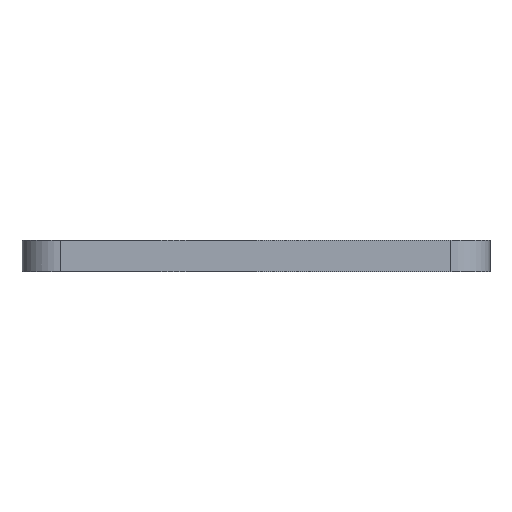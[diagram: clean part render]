
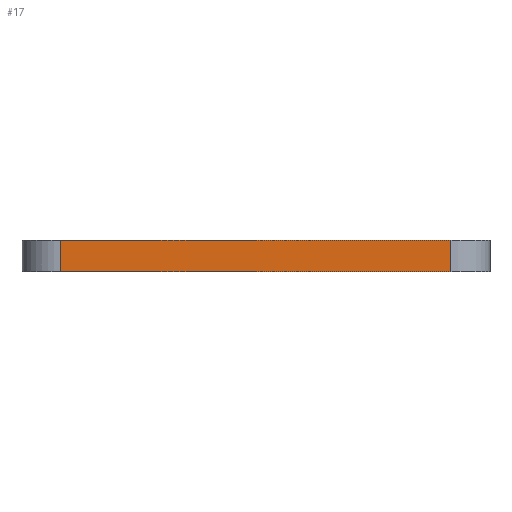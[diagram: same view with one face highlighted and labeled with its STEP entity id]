
A CAD part, left-side view. The second image highlights one B-rep face of the part: STEP entity #17.
In plain terms, the highlighted planar face has unit normal (-1, 0, 0).
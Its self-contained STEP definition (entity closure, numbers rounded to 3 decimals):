
#17 = ADVANCED_FACE('',(#18),#32,.F.);
#18 = FACE_BOUND('',#19,.F.);
#19 = EDGE_LOOP('',(#20,#55,#83,#111));
#20 = ORIENTED_EDGE('',*,*,#21,.F.);
#21 = EDGE_CURVE('',#22,#24,#26,.T.);
#22 = VERTEX_POINT('',#23);
#23 = CARTESIAN_POINT('',(-25.,-10.,1.6));
#24 = VERTEX_POINT('',#25);
#25 = CARTESIAN_POINT('',(-25.,10.,1.6));
#26 = SURFACE_CURVE('',#27,(#31,#43),.PCURVE_S1.);
#27 = LINE('',#28,#29);
#28 = CARTESIAN_POINT('',(-25.,-12.,1.6));
#29 = VECTOR('',#30,1.);
#30 = DIRECTION('',(0.,1.,0.));
#31 = PCURVE('',#32,#37);
#32 = PLANE('',#33);
#33 = AXIS2_PLACEMENT_3D('',#34,#35,#36);
#34 = CARTESIAN_POINT('',(-25.,-12.,0.));
#35 = DIRECTION('',(1.,0.,0.));
#36 = DIRECTION('',(0.,0.,1.));
#37 = DEFINITIONAL_REPRESENTATION('',(#38),#42);
#38 = LINE('',#39,#40);
#39 = CARTESIAN_POINT('',(1.6,0.));
#40 = VECTOR('',#41,1.);
#41 = DIRECTION('',(0.,-1.));
#42 = ( GEOMETRIC_REPRESENTATION_CONTEXT(2) 
PARAMETRIC_REPRESENTATION_CONTEXT() REPRESENTATION_CONTEXT('2D SPACE',''
  ) );
#43 = PCURVE('',#44,#49);
#44 = PLANE('',#45);
#45 = AXIS2_PLACEMENT_3D('',#46,#47,#48);
#46 = CARTESIAN_POINT('',(-25.,-12.,1.6));
#47 = DIRECTION('',(0.,0.,1.));
#48 = DIRECTION('',(1.,0.,0.));
#49 = DEFINITIONAL_REPRESENTATION('',(#50),#54);
#50 = LINE('',#51,#52);
#51 = CARTESIAN_POINT('',(0.,0.));
#52 = VECTOR('',#53,1.);
#53 = DIRECTION('',(0.,1.));
#54 = ( GEOMETRIC_REPRESENTATION_CONTEXT(2) 
PARAMETRIC_REPRESENTATION_CONTEXT() REPRESENTATION_CONTEXT('2D SPACE',''
  ) );
#55 = ORIENTED_EDGE('',*,*,#56,.F.);
#56 = EDGE_CURVE('',#57,#22,#59,.T.);
#57 = VERTEX_POINT('',#58);
#58 = CARTESIAN_POINT('',(-25.,-10.,0.));
#59 = SURFACE_CURVE('',#60,(#64,#71),.PCURVE_S1.);
#60 = LINE('',#61,#62);
#61 = CARTESIAN_POINT('',(-25.,-10.,0.));
#62 = VECTOR('',#63,1.);
#63 = DIRECTION('',(0.,0.,1.));
#64 = PCURVE('',#32,#65);
#65 = DEFINITIONAL_REPRESENTATION('',(#66),#70);
#66 = LINE('',#67,#68);
#67 = CARTESIAN_POINT('',(0.,-2.));
#68 = VECTOR('',#69,1.);
#69 = DIRECTION('',(1.,0.));
#70 = ( GEOMETRIC_REPRESENTATION_CONTEXT(2) 
PARAMETRIC_REPRESENTATION_CONTEXT() REPRESENTATION_CONTEXT('2D SPACE',''
  ) );
#71 = PCURVE('',#72,#77);
#72 = CYLINDRICAL_SURFACE('',#73,2.);
#73 = AXIS2_PLACEMENT_3D('',#74,#75,#76);
#74 = CARTESIAN_POINT('',(-23.,-10.,0.));
#75 = DIRECTION('',(0.,0.,1.));
#76 = DIRECTION('',(-1.,-0.,0.));
#77 = DEFINITIONAL_REPRESENTATION('',(#78),#82);
#78 = LINE('',#79,#80);
#79 = CARTESIAN_POINT('',(0.,0.));
#80 = VECTOR('',#81,1.);
#81 = DIRECTION('',(0.,1.));
#82 = ( GEOMETRIC_REPRESENTATION_CONTEXT(2) 
PARAMETRIC_REPRESENTATION_CONTEXT() REPRESENTATION_CONTEXT('2D SPACE',''
  ) );
#83 = ORIENTED_EDGE('',*,*,#84,.T.);
#84 = EDGE_CURVE('',#57,#85,#87,.T.);
#85 = VERTEX_POINT('',#86);
#86 = CARTESIAN_POINT('',(-25.,10.,0.));
#87 = SURFACE_CURVE('',#88,(#92,#99),.PCURVE_S1.);
#88 = LINE('',#89,#90);
#89 = CARTESIAN_POINT('',(-25.,-12.,0.));
#90 = VECTOR('',#91,1.);
#91 = DIRECTION('',(0.,1.,0.));
#92 = PCURVE('',#32,#93);
#93 = DEFINITIONAL_REPRESENTATION('',(#94),#98);
#94 = LINE('',#95,#96);
#95 = CARTESIAN_POINT('',(0.,0.));
#96 = VECTOR('',#97,1.);
#97 = DIRECTION('',(0.,-1.));
#98 = ( GEOMETRIC_REPRESENTATION_CONTEXT(2) 
PARAMETRIC_REPRESENTATION_CONTEXT() REPRESENTATION_CONTEXT('2D SPACE',''
  ) );
#99 = PCURVE('',#100,#105);
#100 = PLANE('',#101);
#101 = AXIS2_PLACEMENT_3D('',#102,#103,#104);
#102 = CARTESIAN_POINT('',(-25.,-12.,0.));
#103 = DIRECTION('',(0.,0.,1.));
#104 = DIRECTION('',(1.,0.,0.));
#105 = DEFINITIONAL_REPRESENTATION('',(#106),#110);
#106 = LINE('',#107,#108);
#107 = CARTESIAN_POINT('',(0.,0.));
#108 = VECTOR('',#109,1.);
#109 = DIRECTION('',(0.,1.));
#110 = ( GEOMETRIC_REPRESENTATION_CONTEXT(2) 
PARAMETRIC_REPRESENTATION_CONTEXT() REPRESENTATION_CONTEXT('2D SPACE',''
  ) );
#111 = ORIENTED_EDGE('',*,*,#112,.T.);
#112 = EDGE_CURVE('',#85,#24,#113,.T.);
#113 = SURFACE_CURVE('',#114,(#118,#125),.PCURVE_S1.);
#114 = LINE('',#115,#116);
#115 = CARTESIAN_POINT('',(-25.,10.,0.));
#116 = VECTOR('',#117,1.);
#117 = DIRECTION('',(0.,0.,1.));
#118 = PCURVE('',#32,#119);
#119 = DEFINITIONAL_REPRESENTATION('',(#120),#124);
#120 = LINE('',#121,#122);
#121 = CARTESIAN_POINT('',(0.,-22.));
#122 = VECTOR('',#123,1.);
#123 = DIRECTION('',(1.,0.));
#124 = ( GEOMETRIC_REPRESENTATION_CONTEXT(2) 
PARAMETRIC_REPRESENTATION_CONTEXT() REPRESENTATION_CONTEXT('2D SPACE',''
  ) );
#125 = PCURVE('',#126,#131);
#126 = CYLINDRICAL_SURFACE('',#127,2.);
#127 = AXIS2_PLACEMENT_3D('',#128,#129,#130);
#128 = CARTESIAN_POINT('',(-23.,10.,0.));
#129 = DIRECTION('',(0.,0.,1.));
#130 = DIRECTION('',(-1.,-0.,0.));
#131 = DEFINITIONAL_REPRESENTATION('',(#132),#136);
#132 = LINE('',#133,#134);
#133 = CARTESIAN_POINT('',(-0.,0.));
#134 = VECTOR('',#135,1.);
#135 = DIRECTION('',(-0.,1.));
#136 = ( GEOMETRIC_REPRESENTATION_CONTEXT(2) 
PARAMETRIC_REPRESENTATION_CONTEXT() REPRESENTATION_CONTEXT('2D SPACE',''
  ) );
